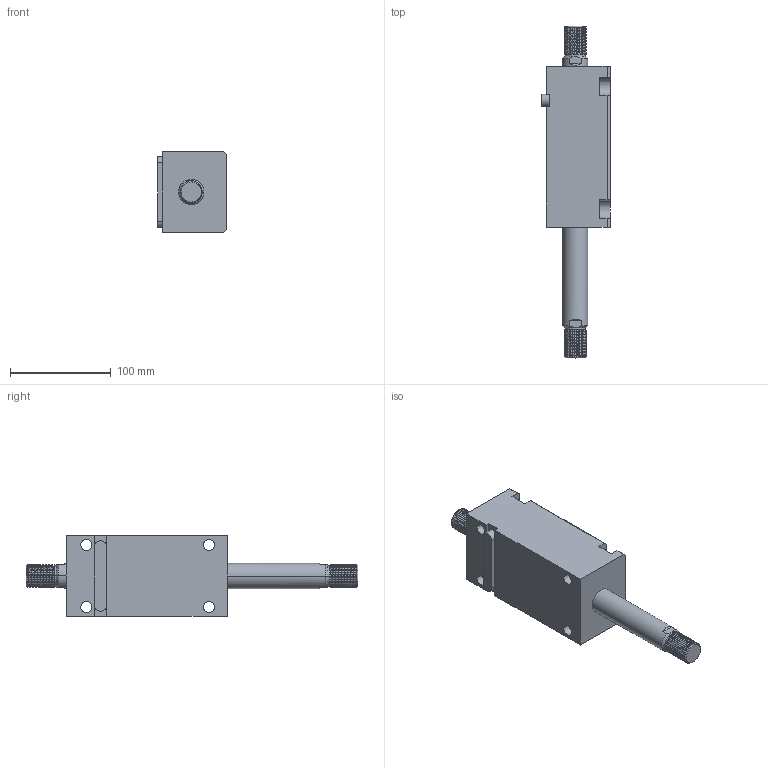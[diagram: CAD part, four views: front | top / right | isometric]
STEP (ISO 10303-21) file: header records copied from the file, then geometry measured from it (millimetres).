
FILE_DESCRIPTION (( 'STEP AP214' ), '1' );
FILE_NAME ('chtb-lw40x90w_asm.STEP', '2018-06-04T11:00:10', ( 'Windows' ), ( 'Microsoft' ), 'SwSTEP 2.0', 'SolidWorks 2015', '' );
FILE_SCHEMA (( 'AUTOMOTIVE_DESIGN' ));
Length unit declared in the file: millimetre
Products named in the file (5): CHTB-SW40X90NHSG; CHTB-SD40QG; CHTB-LW40X90NBT; CHTB-LA40PJ; chtb-lw40x90w_asm
Assembly tree (4 placements, depth 2):
  chtb-lw40x90w_asm
    CHTB-LA40PJ
    CHTB-LW40X90NBT
    CHTB-SD40QG
    CHTB-SW40X90NHSG
Bounding box: 68.5 x 330 x 80 mm (x, y, z)
Volume: 788679.5 mm3; surface area: 128218.5 mm2
Topology: 4 solids, 4 shells, 258 faces, 711 edges, 473 vertices
Faces by surface type: cylinder 152, plane 59, bspline 18, cone 17, torus 12
Entity records: 17539 total; most frequent: CARTESIAN_POINT 11292, ORIENTED_EDGE 1410, DIRECTION 1124, EDGE_CURVE 705, VERTEX_POINT 473, AXIS2_PLACEMENT_3D 433, EDGE_LOOP 292, LINE 258
